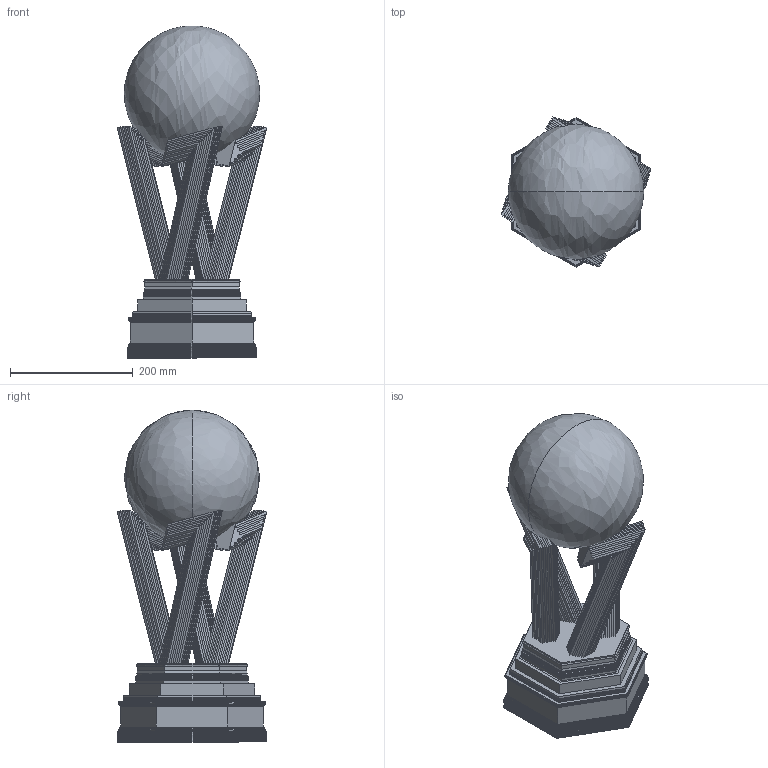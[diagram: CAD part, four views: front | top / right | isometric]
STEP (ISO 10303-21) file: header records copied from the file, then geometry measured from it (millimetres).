
FILE_DESCRIPTION(/* description */ (''),/* implementation_level */ '2;1');
FILE_NAME(/* name */ 'Trophée_01_07_2024',/* time_stamp */ '2024-07-01T10:58:33+02:00',/* author */ (''),/* organization */ (''),/* preprocessor_version */ 'ST-DEVELOPER v16.5',/* originating_system */ 'Rhino 7.36',/* authorisation */ '');
FILE_SCHEMA (('CONFIG_CONTROL_DESIGN'));
Length unit declared in the file: millimetre
Products named in the file (1): Document
Bounding box: 243.87 x 243.87 x 540.33 mm (x, y, z)
Volume: 10513364.9 mm3; surface area: 581833.1 mm2
Topology: 6 solids, 7 shells, 1255 faces, 2842 edges, 1604 vertices
Faces by surface type: plane 1097, cylinder 144, bspline 14
Entity records: 30364 total; most frequent: CARTESIAN_POINT 10036, ORIENTED_EDGE 5670, EDGE_CURVE 2838, B_SPLINE_CURVE_WITH_KNOTS 2603, VERTEX_POINT 1604, EDGE_LOOP 1263, ADVANCED_FACE 1255, FACE_OUTER_BOUND 1255
